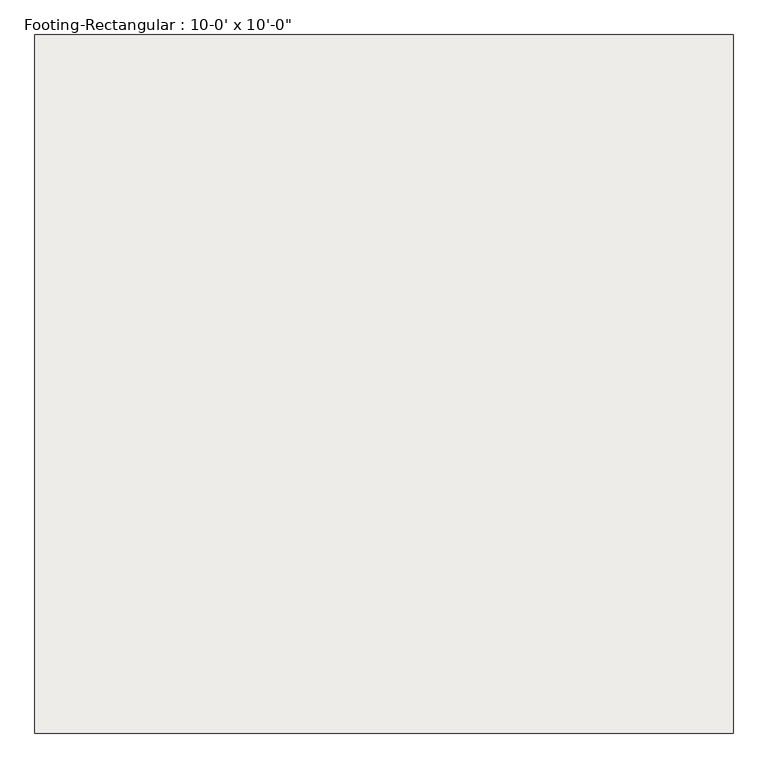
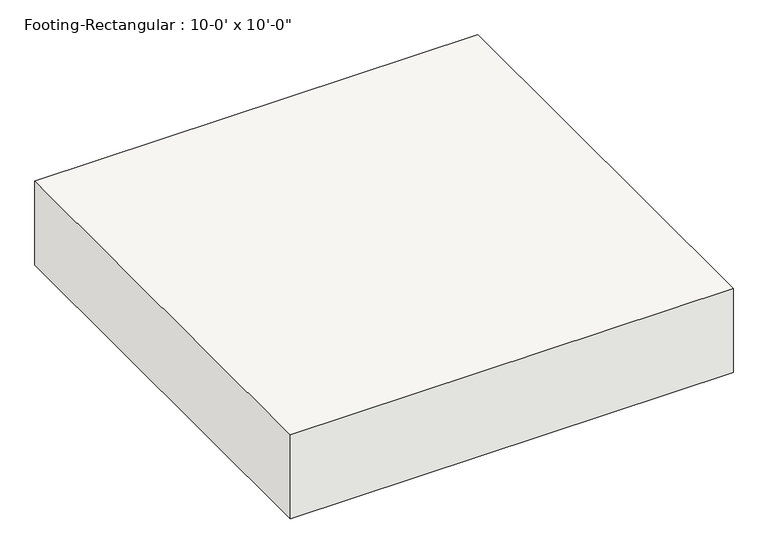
"""IFC4 building model written with IfcOpenShell, lengths in millimetres: slab geometry."""

from ifc_helpers import new_model, si_unit, frame, origin, place, context, project, spatial, polyline, outline, extrude, source, transform, mapped, element, save


def slab_5ce8dbd1(model_context):
    return source(origin(), model_context, "Body", "SweptSolid", [
        extrude(outline(polyline([(1524.0, 1524.0), (1524.0, -1524.0), (-1524.0, -1524.0), (-1524.0, 1524.0), (1524.0, 1524.0)])), frame((0.0, 0.0, -609.6), z_axis=(0.0, 0.0, 1.0), x_axis=(1.0, 0.0, 0.0)), (0.0, 0.0, 1.0), 609.6),
    ])


if __name__ == "__main__":
    model = new_model("IFC4")
    model_context = context("Model", 3, world=origin())
    ifc_project = project(units=[si_unit("LENGTHUNIT", "METRE", prefix="MILLI")], contexts=[model_context])
    site = spatial("IfcSite", under=ifc_project)
    building = spatial("IfcBuilding", under=site)
    placement = place(None, origin())
    slab_shape = slab_5ce8dbd1(model_context)
    element("IfcSlab", 1, ObjectType="Footing-Rectangular : 10-0' x 10'-0\"", at=placement, inside=building, context=model_context, shape_type="MappedRepresentation", body=[
        mapped(slab_shape, transform((0.0, 0.0, 0.0), x_axis=(1.0, 0.0, 0.0), y_axis=(0.0, 1.0, 0.0), z_axis=(0.0, 0.0, 1.0))),
    ])
    save(model, "model.ifc")
